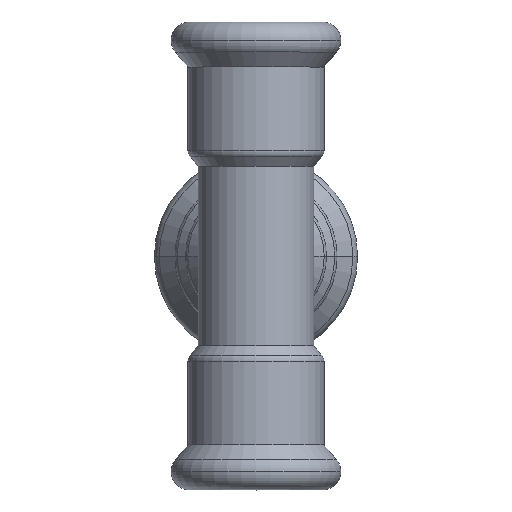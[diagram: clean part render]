
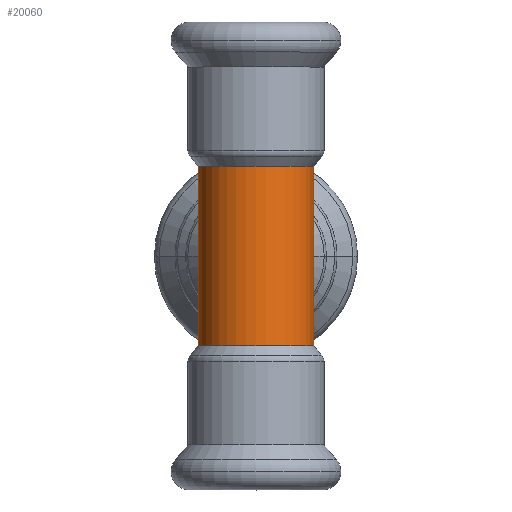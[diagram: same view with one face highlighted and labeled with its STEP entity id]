
A CAD part, top view. The second image highlights one B-rep face of the part: STEP entity #20060.
In plain terms, the highlighted cylindrical face has radius 9 mm (diameter 18 mm), a partial arc.
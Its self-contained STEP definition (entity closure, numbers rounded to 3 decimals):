
#5220=CARTESIAN_POINT('',(-319.291,17.935,
14.));
#5230=DIRECTION('',(0.,0.,1.));
#5240=DIRECTION('',(-1.,0.,0.));
#5250=AXIS2_PLACEMENT_3D('',#5220,#5230,#5240);
#5260=CYLINDRICAL_SURFACE('',#5250,9.);
#15170=CARTESIAN_POINT('',(-328.291,17.935,
-14.));
#15180=VERTEX_POINT('',#15170);
#15270=CARTESIAN_POINT('',(-310.291,17.935,
-14.));
#15280=VERTEX_POINT('',#15270);
#15310=CARTESIAN_POINT('',(-319.291,17.935,
-14.));
#15320=DIRECTION('',(0.,0.,1.));
#15330=DIRECTION('',(-1.,0.,0.));
#15340=AXIS2_PLACEMENT_3D('',#15310,#15320,#15330);
#15350=CIRCLE('',#15340,9.);
#16320=CARTESIAN_POINT('',(-310.291,17.935,
14.));
#16330=DIRECTION('',(0.,0.,1.));
#16340=VECTOR('',#16330,1.);
#16350=LINE('',#16320,#16340);
#16360=CARTESIAN_POINT('',(-310.291,17.935,
0.));
#16370=VERTEX_POINT('',#16360);
#16380=EDGE_CURVE('',#15280,#16370,#16350,.T.);
#16450=CARTESIAN_POINT('',(-328.291,17.935,0.));
#16460=VERTEX_POINT('',#16450);
#16490=CARTESIAN_POINT('',(-328.291,17.935,
14.));
#16500=DIRECTION('',(0.,0.,1.));
#16510=VECTOR('',#16500,1.);
#16520=LINE('',#16490,#16510);
#16530=EDGE_CURVE('',#15180,#16460,#16520,.T.);
#17610=CARTESIAN_POINT('',(-310.291,17.935,
14.));
#17620=VERTEX_POINT('',#17610);
#17710=CARTESIAN_POINT('',(-328.291,17.935,
14.));
#17720=VERTEX_POINT('',#17710);
#17750=CARTESIAN_POINT('',(-319.291,17.935,
14.));
#17760=DIRECTION('',(0.,0.,1.));
#17770=DIRECTION('',(1.,0.,0.));
#17780=AXIS2_PLACEMENT_3D('',#17750,#17760,#17770);
#17790=CIRCLE('',#17780,9.);
#19940=EDGE_CURVE('',#16460,#17720,#16520,.T.);
#19950=ORIENTED_EDGE('',*,*,#19940,.F.);
#19960=EDGE_CURVE('',#17720,#17620,#17790,.T.);
#19970=ORIENTED_EDGE('',*,*,#19960,.F.);
#19980=EDGE_CURVE('',#16370,#17620,#16350,.T.);
#19990=ORIENTED_EDGE('',*,*,#19980,.T.);
#20000=ORIENTED_EDGE('',*,*,#16380,.T.);
#20010=EDGE_CURVE('',#15180,#15280,#15350,.T.);
#20020=ORIENTED_EDGE('',*,*,#20010,.T.);
#20030=ORIENTED_EDGE('',*,*,#16530,.F.);
#20040=EDGE_LOOP('',(#20030,#20020,#20000,#19990,#19970,#19950));
#20050=FACE_OUTER_BOUND('',#20040,.T.);
#20060=ADVANCED_FACE('',(#20050),#5260,.T.);
